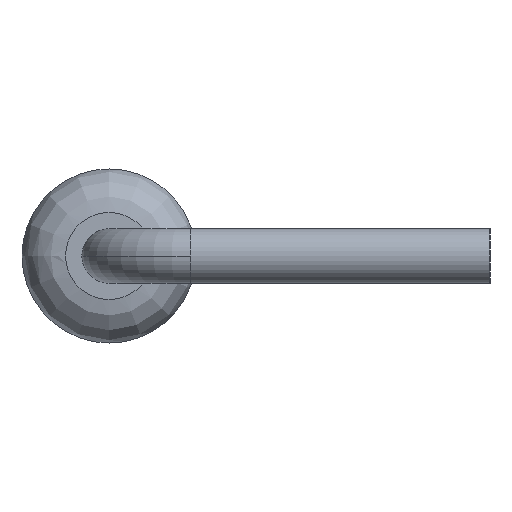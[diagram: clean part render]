
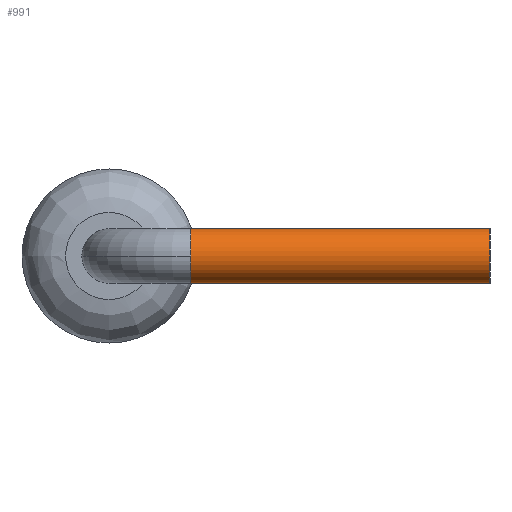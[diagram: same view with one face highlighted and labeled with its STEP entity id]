
A CAD part, left-side view. The second image highlights one B-rep face of the part: STEP entity #991.
In plain terms, the highlighted cylindrical face has radius 0.25 mm (diameter 0.5 mm), a partial arc.
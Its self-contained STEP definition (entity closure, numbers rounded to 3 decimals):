
#830=CARTESIAN_POINT('',(0.,-0.75,1.));
#831=VERTEX_POINT('',#830);
#866=CARTESIAN_POINT('',(-0.25,-0.75,0.75));
#867=VERTEX_POINT('',#866);
#875=CARTESIAN_POINT('',(0.0,-0.75,0.75));
#876=DIRECTION('',(0.0,1.0,0.0));
#877=DIRECTION('',(-1.0,0.0,0.0));
#878=AXIS2_PLACEMENT_3D('',#875,#876,#877);
#879=CIRCLE('',#878,0.25);
#880=EDGE_CURVE('',#867,#831,#879,.T.);
#931=CARTESIAN_POINT('',(-0.25,-3.5,0.75));
#932=VERTEX_POINT('',#931);
#933=CARTESIAN_POINT('',(-0.25,-0.75,0.75));
#934=DIRECTION('',(0.0,-1.0,0.0));
#935=VECTOR('',#934,2.75);
#936=LINE('',#933,#935);
#937=EDGE_CURVE('',#867,#932,#936,.T.);
#940=CARTESIAN_POINT('',(0.25,-0.75,0.75));
#941=VERTEX_POINT('',#940);
#949=CARTESIAN_POINT('',(0.25,-3.5,0.75));
#950=VERTEX_POINT('',#949);
#951=CARTESIAN_POINT('',(0.25,-3.5,0.75));
#952=DIRECTION('',(0.0,1.0,0.0));
#953=VECTOR('',#952,2.75);
#954=LINE('',#951,#953);
#955=EDGE_CURVE('',#950,#941,#954,.T.);
#967=CARTESIAN_POINT('',(0.0,-0.75,0.75));
#968=DIRECTION('',(0.0,-1.0,0.0));
#969=DIRECTION('',(-1.0,0.0,0.0));
#970=AXIS2_PLACEMENT_3D('',#967,#968,#969);
#971=CYLINDRICAL_SURFACE('',#970,0.25);
#972=ORIENTED_EDGE('',*,*,#937,.T.);
#973=CARTESIAN_POINT('',(0.0,-3.5,0.75));
#974=DIRECTION('',(0.0,1.0,0.0));
#975=DIRECTION('',(-1.0,0.0,0.0));
#976=AXIS2_PLACEMENT_3D('',#973,#974,#975);
#977=CIRCLE('',#976,0.25);
#978=EDGE_CURVE('',#932,#950,#977,.T.);
#979=ORIENTED_EDGE('',*,*,#978,.T.);
#980=ORIENTED_EDGE('',*,*,#955,.T.);
#981=CARTESIAN_POINT('',(0.0,-0.75,0.75));
#982=DIRECTION('',(0.0,1.0,0.0));
#983=DIRECTION('',(-1.0,0.0,0.0));
#984=AXIS2_PLACEMENT_3D('',#981,#982,#983);
#985=CIRCLE('',#984,0.25);
#986=EDGE_CURVE('',#831,#941,#985,.T.);
#987=ORIENTED_EDGE('',*,*,#986,.F.);
#988=ORIENTED_EDGE('',*,*,#880,.F.);
#989=EDGE_LOOP('',(#972,#979,#980,#987,#988));
#990=FACE_OUTER_BOUND('',#989,.T.);
#991=ADVANCED_FACE('',(#990),#971,.T.);
